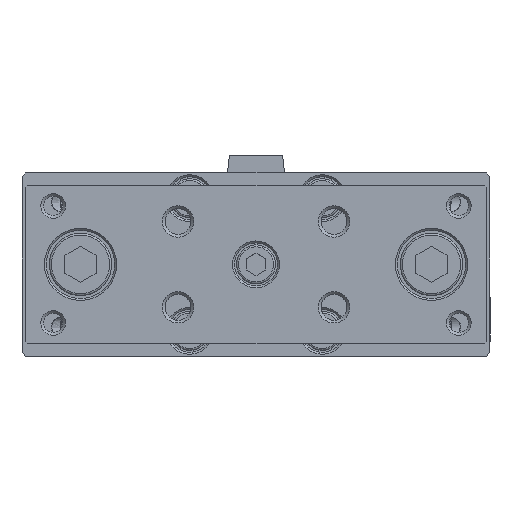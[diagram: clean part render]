
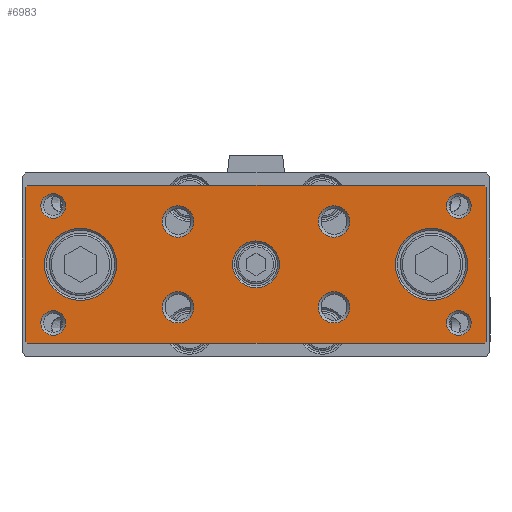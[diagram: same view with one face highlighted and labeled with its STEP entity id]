
A CAD part, top view. The second image highlights one B-rep face of the part: STEP entity #6983.
In plain terms, the highlighted planar face has unit normal (0, 0, 1).
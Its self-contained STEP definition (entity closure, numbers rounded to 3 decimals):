
#6765=CARTESIAN_POINT('',(-62.226,-20.37,151.));
#6766=VERTEX_POINT('',#6765);
#6767=CARTESIAN_POINT('',(-62.726,-19.87,151.));
#6768=VERTEX_POINT('',#6767);
#6769=CARTESIAN_POINT('',(-62.226,-20.37,151.));
#6770=DIRECTION('',(-0.707,0.707,0.0));
#6771=VECTOR('',#6770,0.707);
#6772=LINE('',#6769,#6771);
#6773=EDGE_CURVE('',#6766,#6768,#6772,.T.);
#6800=CARTESIAN_POINT('',(-3.726,-0.12,151.));
#6801=DIRECTION('',(0.0,0.0,1.0));
#6802=DIRECTION('',(1.0,0.0,0.0));
#6803=AXIS2_PLACEMENT_3D('',#6800,#6801,#6802);
#6804=PLANE('',#6803);
#6805=ORIENTED_EDGE('',*,*,#6773,.F.);
#6806=CARTESIAN_POINT('',(54.774,-20.37,151.));
#6807=VERTEX_POINT('',#6806);
#6808=CARTESIAN_POINT('',(54.774,-20.37,151.));
#6809=DIRECTION('',(-1.0,0.0,0.0));
#6810=VECTOR('',#6809,117.0);
#6811=LINE('',#6808,#6810);
#6812=EDGE_CURVE('',#6807,#6766,#6811,.T.);
#6813=ORIENTED_EDGE('',*,*,#6812,.F.);
#6814=CARTESIAN_POINT('',(55.274,-19.87,151.));
#6815=VERTEX_POINT('',#6814);
#6816=CARTESIAN_POINT('',(55.274,-19.87,151.));
#6817=DIRECTION('',(-0.707,-0.707,0.0));
#6818=VECTOR('',#6817,0.707);
#6819=LINE('',#6816,#6818);
#6820=EDGE_CURVE('',#6815,#6807,#6819,.T.);
#6821=ORIENTED_EDGE('',*,*,#6820,.F.);
#6822=CARTESIAN_POINT('',(55.274,19.63,151.));
#6823=VERTEX_POINT('',#6822);
#6824=CARTESIAN_POINT('',(55.274,19.63,151.));
#6825=DIRECTION('',(0.0,-1.0,0.0));
#6826=VECTOR('',#6825,39.5);
#6827=LINE('',#6824,#6826);
#6828=EDGE_CURVE('',#6823,#6815,#6827,.T.);
#6829=ORIENTED_EDGE('',*,*,#6828,.F.);
#6830=CARTESIAN_POINT('',(54.774,20.13,151.));
#6831=VERTEX_POINT('',#6830);
#6832=CARTESIAN_POINT('',(54.774,20.13,151.));
#6833=DIRECTION('',(0.707,-0.707,0.0));
#6834=VECTOR('',#6833,0.707);
#6835=LINE('',#6832,#6834);
#6836=EDGE_CURVE('',#6831,#6823,#6835,.T.);
#6837=ORIENTED_EDGE('',*,*,#6836,.F.);
#6838=CARTESIAN_POINT('',(-62.226,20.13,151.));
#6839=VERTEX_POINT('',#6838);
#6840=CARTESIAN_POINT('',(-62.226,20.13,151.));
#6841=DIRECTION('',(1.0,0.0,0.0));
#6842=VECTOR('',#6841,117.0);
#6843=LINE('',#6840,#6842);
#6844=EDGE_CURVE('',#6839,#6831,#6843,.T.);
#6845=ORIENTED_EDGE('',*,*,#6844,.F.);
#6846=CARTESIAN_POINT('',(-62.726,19.63,151.));
#6847=VERTEX_POINT('',#6846);
#6848=CARTESIAN_POINT('',(-62.726,19.63,151.));
#6849=DIRECTION('',(0.707,0.707,0.0));
#6850=VECTOR('',#6849,0.707);
#6851=LINE('',#6848,#6850);
#6852=EDGE_CURVE('',#6847,#6839,#6851,.T.);
#6853=ORIENTED_EDGE('',*,*,#6852,.F.);
#6854=CARTESIAN_POINT('',(-62.726,-19.87,151.));
#6855=DIRECTION('',(0.0,1.0,0.0));
#6856=VECTOR('',#6855,39.5);
#6857=LINE('',#6854,#6856);
#6858=EDGE_CURVE('',#6768,#6847,#6857,.T.);
#6859=ORIENTED_EDGE('',*,*,#6858,.F.);
#6860=EDGE_LOOP('',(#6805,#6813,#6821,#6829,#6837,#6845,#6853,#6859));
#6861=FACE_OUTER_BOUND('',#6860,.T.);
#6862=CARTESIAN_POINT('',(50.524,-0.12,151.));
#6863=VERTEX_POINT('',#6862);
#6864=CARTESIAN_POINT('',(41.274,-0.12,151.));
#6865=DIRECTION('',(0.0,0.0,1.0));
#6866=DIRECTION('',(-1.0,0.0,0.0));
#6867=AXIS2_PLACEMENT_3D('',#6864,#6865,#6866);
#6868=CIRCLE('',#6867,9.25);
#6869=EDGE_CURVE('',#6863,#6863,#6868,.T.);
#6870=ORIENTED_EDGE('',*,*,#6869,.F.);
#6871=EDGE_LOOP('',(#6870));
#6872=FACE_BOUND('',#6871,.T.);
#6873=CARTESIAN_POINT('',(2.274,-0.12,151.));
#6874=VERTEX_POINT('',#6873);
#6875=CARTESIAN_POINT('',(-3.726,-0.12,151.));
#6876=DIRECTION('',(0.0,0.0,1.0));
#6877=DIRECTION('',(-1.0,0.0,0.0));
#6878=AXIS2_PLACEMENT_3D('',#6875,#6876,#6877);
#6879=CIRCLE('',#6878,6.);
#6880=EDGE_CURVE('',#6874,#6874,#6879,.T.);
#6881=ORIENTED_EDGE('',*,*,#6880,.F.);
#6882=EDGE_LOOP('',(#6881));
#6883=FACE_BOUND('',#6882,.T.);
#6884=CARTESIAN_POINT('',(20.298,-11.12,151.));
#6885=VERTEX_POINT('',#6884);
#6886=CARTESIAN_POINT('',(16.274,-11.12,151.));
#6887=DIRECTION('',(0.0,0.0,1.0));
#6888=DIRECTION('',(-1.0,0.0,0.0));
#6889=AXIS2_PLACEMENT_3D('',#6886,#6887,#6888);
#6890=CIRCLE('',#6889,4.024);
#6891=EDGE_CURVE('',#6885,#6885,#6890,.T.);
#6892=ORIENTED_EDGE('',*,*,#6891,.F.);
#6893=EDGE_LOOP('',(#6892));
#6894=FACE_BOUND('',#6893,.T.);
#6895=CARTESIAN_POINT('',(-19.702,-11.12,151.));
#6896=VERTEX_POINT('',#6895);
#6897=CARTESIAN_POINT('',(-23.726,-11.12,151.));
#6898=DIRECTION('',(0.0,0.0,1.0));
#6899=DIRECTION('',(-1.0,0.0,0.0));
#6900=AXIS2_PLACEMENT_3D('',#6897,#6898,#6899);
#6901=CIRCLE('',#6900,4.023);
#6902=EDGE_CURVE('',#6896,#6896,#6901,.T.);
#6903=ORIENTED_EDGE('',*,*,#6902,.F.);
#6904=EDGE_LOOP('',(#6903));
#6905=FACE_BOUND('',#6904,.T.);
#6906=CARTESIAN_POINT('',(20.298,10.88,151.));
#6907=VERTEX_POINT('',#6906);
#6908=CARTESIAN_POINT('',(16.274,10.88,151.));
#6909=DIRECTION('',(0.0,0.0,1.0));
#6910=DIRECTION('',(-1.0,0.0,0.0));
#6911=AXIS2_PLACEMENT_3D('',#6908,#6909,#6910);
#6912=CIRCLE('',#6911,4.024);
#6913=EDGE_CURVE('',#6907,#6907,#6912,.T.);
#6914=ORIENTED_EDGE('',*,*,#6913,.F.);
#6915=EDGE_LOOP('',(#6914));
#6916=FACE_BOUND('',#6915,.T.);
#6917=CARTESIAN_POINT('',(-19.702,10.88,151.));
#6918=VERTEX_POINT('',#6917);
#6919=CARTESIAN_POINT('',(-23.726,10.88,151.));
#6920=DIRECTION('',(0.0,0.0,1.0));
#6921=DIRECTION('',(-1.0,0.0,0.0));
#6922=AXIS2_PLACEMENT_3D('',#6919,#6920,#6921);
#6923=CIRCLE('',#6922,4.023);
#6924=EDGE_CURVE('',#6918,#6918,#6923,.T.);
#6925=ORIENTED_EDGE('',*,*,#6924,.F.);
#6926=EDGE_LOOP('',(#6925));
#6927=FACE_BOUND('',#6926,.T.);
#6928=CARTESIAN_POINT('',(51.433,14.88,151.));
#6929=VERTEX_POINT('',#6928);
#6930=CARTESIAN_POINT('',(48.274,14.88,151.));
#6931=DIRECTION('',(0.0,0.0,1.0));
#6932=DIRECTION('',(-1.0,0.0,0.0));
#6933=AXIS2_PLACEMENT_3D('',#6930,#6931,#6932);
#6934=CIRCLE('',#6933,3.159);
#6935=EDGE_CURVE('',#6929,#6929,#6934,.T.);
#6936=ORIENTED_EDGE('',*,*,#6935,.F.);
#6937=EDGE_LOOP('',(#6936));
#6938=FACE_BOUND('',#6937,.T.);
#6939=CARTESIAN_POINT('',(51.433,-15.12,151.));
#6940=VERTEX_POINT('',#6939);
#6941=CARTESIAN_POINT('',(48.274,-15.12,151.));
#6942=DIRECTION('',(0.0,0.0,1.0));
#6943=DIRECTION('',(-1.0,0.0,0.0));
#6944=AXIS2_PLACEMENT_3D('',#6941,#6942,#6943);
#6945=CIRCLE('',#6944,3.159);
#6946=EDGE_CURVE('',#6940,#6940,#6945,.T.);
#6947=ORIENTED_EDGE('',*,*,#6946,.F.);
#6948=EDGE_LOOP('',(#6947));
#6949=FACE_BOUND('',#6948,.T.);
#6950=CARTESIAN_POINT('',(-52.567,-15.12,151.));
#6951=VERTEX_POINT('',#6950);
#6952=CARTESIAN_POINT('',(-55.726,-15.12,151.));
#6953=DIRECTION('',(0.0,0.0,1.0));
#6954=DIRECTION('',(-1.0,0.0,0.0));
#6955=AXIS2_PLACEMENT_3D('',#6952,#6953,#6954);
#6956=CIRCLE('',#6955,3.159);
#6957=EDGE_CURVE('',#6951,#6951,#6956,.T.);
#6958=ORIENTED_EDGE('',*,*,#6957,.F.);
#6959=EDGE_LOOP('',(#6958));
#6960=FACE_BOUND('',#6959,.T.);
#6961=CARTESIAN_POINT('',(-52.567,14.88,151.));
#6962=VERTEX_POINT('',#6961);
#6963=CARTESIAN_POINT('',(-55.726,14.88,151.));
#6964=DIRECTION('',(0.0,0.0,1.0));
#6965=DIRECTION('',(-1.0,0.0,0.0));
#6966=AXIS2_PLACEMENT_3D('',#6963,#6964,#6965);
#6967=CIRCLE('',#6966,3.159);
#6968=EDGE_CURVE('',#6962,#6962,#6967,.T.);
#6969=ORIENTED_EDGE('',*,*,#6968,.F.);
#6970=EDGE_LOOP('',(#6969));
#6971=FACE_BOUND('',#6970,.T.);
#6972=CARTESIAN_POINT('',(-39.476,-0.12,151.));
#6973=VERTEX_POINT('',#6972);
#6974=CARTESIAN_POINT('',(-48.726,-0.12,151.));
#6975=DIRECTION('',(0.0,0.0,1.0));
#6976=DIRECTION('',(-1.0,0.0,0.0));
#6977=AXIS2_PLACEMENT_3D('',#6974,#6975,#6976);
#6978=CIRCLE('',#6977,9.25);
#6979=EDGE_CURVE('',#6973,#6973,#6978,.T.);
#6980=ORIENTED_EDGE('',*,*,#6979,.F.);
#6981=EDGE_LOOP('',(#6980));
#6982=FACE_BOUND('',#6981,.T.);
#6983=ADVANCED_FACE('',(#6861,#6872,#6883,#6894,#6905,#6916,#6927,#6938,#6949,#6960,#6971,#6982),#6804,.T.);
